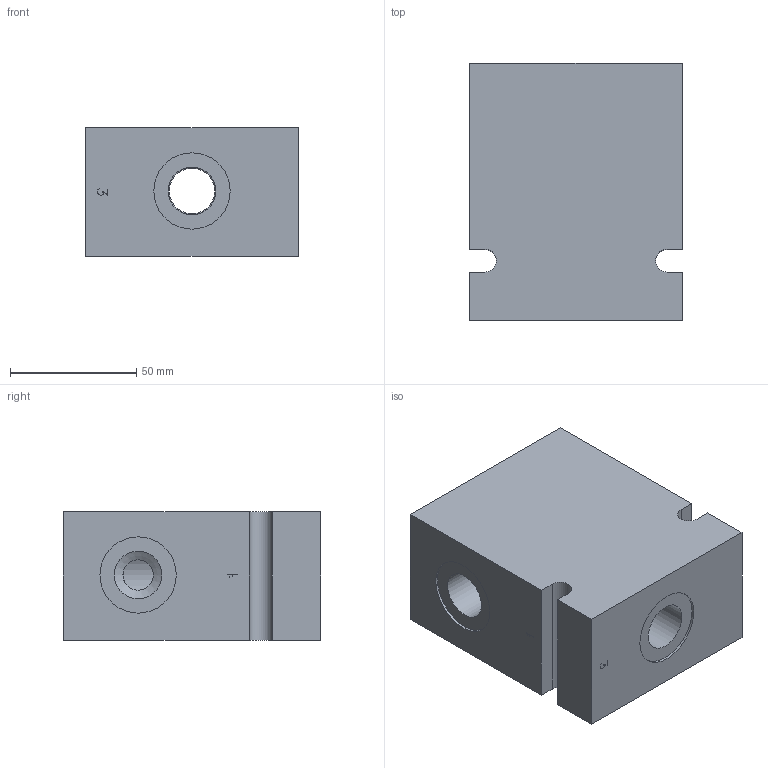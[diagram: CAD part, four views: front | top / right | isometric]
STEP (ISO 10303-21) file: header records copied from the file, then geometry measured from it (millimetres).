
FILE_DESCRIPTION( ( 'Unknown' ), '1' );
FILE_NAME( 'G:/Graphic Design/Graphic Design 2/Data Sheets/Delta Bodies/DRAWINGS/B-DHUC3.stp', 'Unknown', ( 'Unknown' ), ( 'Unknown' ), 'PSStep 16.0.42', 'Unknown', ' ' );
FILE_SCHEMA( ( 'AUTOMOTIVE_DESIGN { 1 0 10303 214 1 1 1 1 }' ) );
Length unit declared in the file: millimetre
Products named in the file (2): Assem1; B-DHUC3
Assembly tree (1 placements, depth 2):
  Assem1
    B-DHUC3
Bounding box: 84 x 101.6 x 50.8 mm (x, y, z)
Surface area: 46702.6 mm2 (no closed solid volume)
Topology: 0 solids, 119 shells, 119 faces, 593 edges, 565 vertices
Faces by surface type: plane 90, cylinder 22, cone 7
Full cylindrical faces by diameter (mm): 0.2 x3, 12 x2, 18 x1, 18.8 x6, 22.25 x1, 23.825 x1, 24.696 x2, 30.17 x3, 41.275 x1
Entity records: 6582 total; most frequent: CARTESIAN_POINT 1829, DIRECTION 600, ORIENTED_EDGE 550, EDGE_CURVE 550, VERTEX_POINT 550, B_SPLINE_CURVE_WITH_KNOTS 272, AXIS2_PLACEMENT_3D 201, LINE 198
